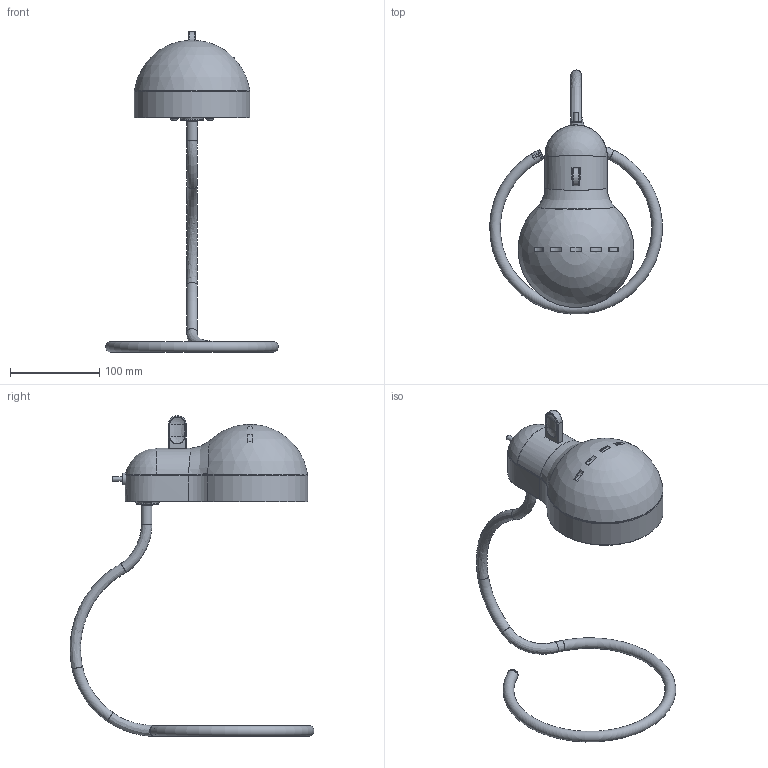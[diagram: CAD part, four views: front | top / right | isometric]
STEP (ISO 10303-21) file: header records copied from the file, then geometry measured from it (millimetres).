
FILE_DESCRIPTION(/* description */ ('Unknown'),/* implementation_level */ '2;1');
FILE_NAME(/* name */ '9065',/* time_stamp */ '2019-07-24T14:20:44+02:00',/* author */ ('Unknown'),/* organization */ ('Unknown'),/* preprocessor_version */ 'ST-DEVELOPER v16.7',/* originating_system */ 'DEX',/* authorisation */ $);
FILE_SCHEMA (('AUTOMOTIVE_DESIGN {1 0 10303 214 3 1 1}'));
Length unit declared in the file: millimetre
Products named in the file (17): MINI-TOPO_LUMETTO; E27; 061000329352_oa_0; LL19013L017; LL19013L019_oa_1; LL19013L020; LL19013L021; F1191-5; E27_CLASSE2_oa_2; 005000034351; 005000029000; LL19013F160; 210000014013; 152000338999; Elektrozubehor_SB 375-4 NERE; LL19013L023; 061000327352
Assembly tree (18 placements, depth 3):
  MINI-TOPO_LUMETTO
    E27
    061000329352_oa_0
      LL19013L017
    LL19013L019_oa_1
      LL19013L020
      LL19013L021
    F1191-5  x2
    E27_CLASSE2_oa_2
      005000034351
      005000029000
    LL19013F160
    210000014013  x2
    152000338999
    Elektrozubehor_SB 375-4 NERE
    LL19013L023
    061000327352
Bounding box: 193.73 x 273.74 x 359.72 mm (x, y, z)
Volume: 121297.5 mm3; surface area: 224704 mm2
Topology: 15 solids, 17 shells, 747 faces, 1931 edges, 1227 vertices
Faces by surface type: plane 410, cylinder 170, bspline 123, torus 20, cone 19, sphere 5
Full cylindrical faces by diameter (mm): 0.2 x6, 0.5 x2, 0.75 x2, 1.567 x1, 2.459 x2, 3 x3, 3.3 x2, 3.5 x2, 3.98 x2, 4 x4, 4.2 x1, 4.5 x8, 5.3 x1, 6.4 x2, 6.5 x1, 8.917 x2, 9 x2, 9.5 x1, 9.6 x1, 10 x1, 10.5 x2, 11.9 x1, 12 x1, 12.2 x1, 13 x1, 13.2 x1, 15.285 x1, 17 x1, 20 x1, 22 x2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
Entity records: 36450 total; most frequent: CARTESIAN_POINT 17503, ORIENTED_EDGE 3290, DIRECTION 2864, EDGE_CURVE 1645, VERTEX_POINT 1110, AXIS2_PLACEMENT_3D 1030, FACE_BOUND 883, EDGE_LOOP 881
